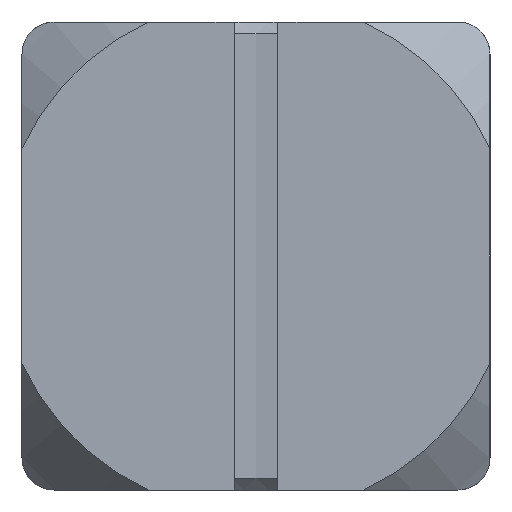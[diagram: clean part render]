
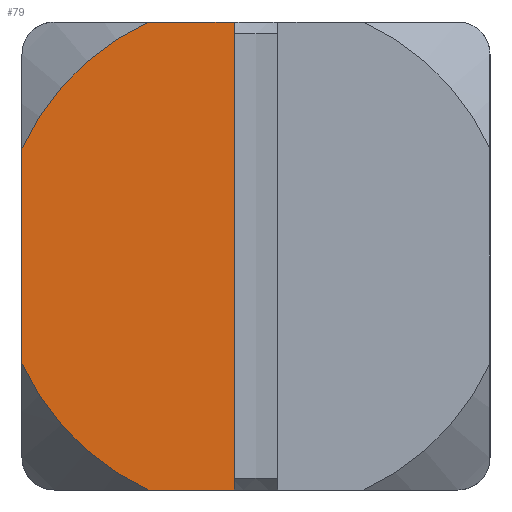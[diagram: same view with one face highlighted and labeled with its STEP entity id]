
A CAD part, left-side view. The second image highlights one B-rep face of the part: STEP entity #79.
In plain terms, the highlighted planar face has unit normal (-1, 0, 0).
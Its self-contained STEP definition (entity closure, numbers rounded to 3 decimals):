
#79 = ADVANCED_FACE( '', ( #136 ), #137, .F. );
#136 = FACE_OUTER_BOUND( '', #251, .T. );
#137 = PLANE( '', #252 );
#251 = EDGE_LOOP( '', ( #392, #393, #394, #395, #396, #397 ) );
#252 = AXIS2_PLACEMENT_3D( '', #398, #399, #400 );
#392 = ORIENTED_EDGE( '', *, *, #805, .T. );
#393 = ORIENTED_EDGE( '', *, *, #801, .F. );
#394 = ORIENTED_EDGE( '', *, *, #806, .F. );
#395 = ORIENTED_EDGE( '', *, *, #807, .F. );
#396 = ORIENTED_EDGE( '', *, *, #808, .T. );
#397 = ORIENTED_EDGE( '', *, *, #809, .F. );
#398 = CARTESIAN_POINT( '', ( -19., 8., 8. ) );
#399 = DIRECTION( '', ( 1., 0., 0. ) );
#400 = DIRECTION( '', ( 0., 0., -1. ) );
#801 = EDGE_CURVE( '', #955, #957, #958, .T. );
#805 = EDGE_CURVE( '', #964, #957, #965, .T. );
#806 = EDGE_CURVE( '', #966, #955, #967, .T. );
#807 = EDGE_CURVE( '', #968, #966, #969, .T. );
#808 = EDGE_CURVE( '', #968, #970, #971, .T. );
#809 = EDGE_CURVE( '', #964, #970, #972, .T. );
#955 = VERTEX_POINT( '', #1214 );
#957 = VERTEX_POINT( '', #1217 );
#958 = LINE( '', #1218, #1219 );
#964 = VERTEX_POINT( '', #1230 );
#965 = LINE( '', #1231, #1232 );
#966 = VERTEX_POINT( '', #1233 );
#967 = LINE( '', #1234, #1235 );
#968 = VERTEX_POINT( '', #1236 );
#969 = CIRCLE( '', #1237, 8.8 );
#970 = VERTEX_POINT( '', #1238 );
#971 = LINE( '', #1239, #1240 );
#972 = CIRCLE( '', #1241, 8.8 );
#1214 = CARTESIAN_POINT( '', ( -19., 0.75, 8. ) );
#1217 = CARTESIAN_POINT( '', ( -19., 0.75, -8. ) );
#1218 = CARTESIAN_POINT( '', ( -19., 0.75, 8. ) );
#1219 = VECTOR( '', #1678, 1000. );
#1230 = CARTESIAN_POINT( '', ( -19., 3.666, -8. ) );
#1231 = CARTESIAN_POINT( '', ( -19., 8., -8. ) );
#1232 = VECTOR( '', #1681, 1000. );
#1233 = CARTESIAN_POINT( '', ( -19., 3.666, 8. ) );
#1234 = CARTESIAN_POINT( '', ( -19., 8., 8. ) );
#1235 = VECTOR( '', #1682, 1000. );
#1236 = CARTESIAN_POINT( '', ( -19., 8., 3.666 ) );
#1237 = AXIS2_PLACEMENT_3D( '', #1683, #1684, #1685 );
#1238 = CARTESIAN_POINT( '', ( -19., 8., -3.666 ) );
#1239 = CARTESIAN_POINT( '', ( -19., 8., 8. ) );
#1240 = VECTOR( '', #1686, 1000. );
#1241 = AXIS2_PLACEMENT_3D( '', #1687, #1688, #1689 );
#1678 = DIRECTION( '', ( 0., 0., -1. ) );
#1681 = DIRECTION( '', ( 0., -1., 0. ) );
#1682 = DIRECTION( '', ( 0., -1., 0. ) );
#1683 = CARTESIAN_POINT( '', ( -19., 0., 0. ) );
#1684 = DIRECTION( '', ( 1., 0., 0. ) );
#1685 = DIRECTION( '', ( 0., 0., -1. ) );
#1686 = DIRECTION( '', ( 0., 0., -1. ) );
#1687 = CARTESIAN_POINT( '', ( -19., 0., 0. ) );
#1688 = DIRECTION( '', ( 1., 0., 0. ) );
#1689 = DIRECTION( '', ( 0., 0., -1. ) );
